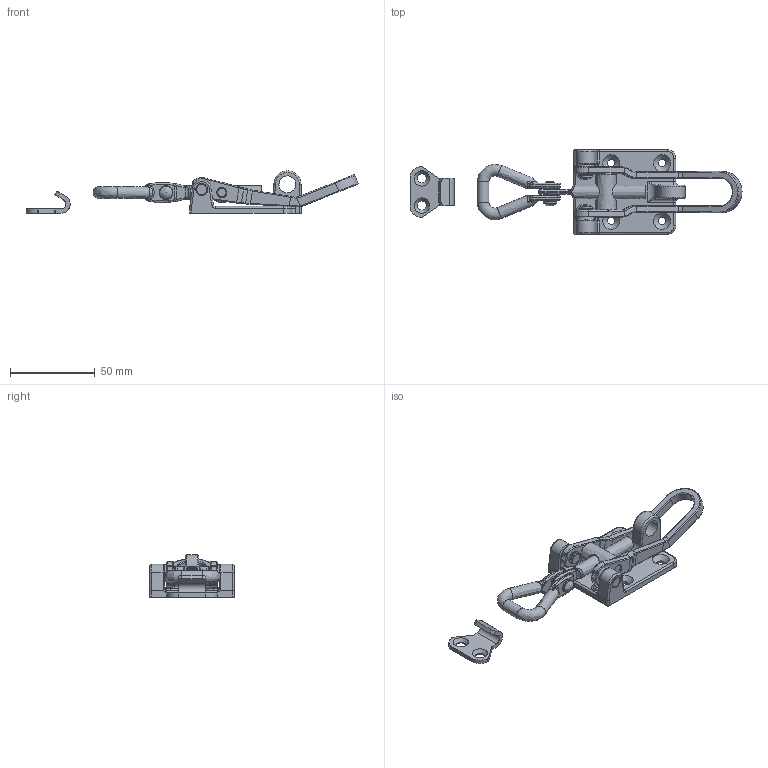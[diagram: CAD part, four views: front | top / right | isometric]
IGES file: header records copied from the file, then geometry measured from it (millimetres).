
Global section: file name: DR_C-M15; native system: Autodesk Inventor 2015; preprocessor: unknown; author: Administrator; date: 20180301.113022; units: millimetre
Bounding box: 195.66 x 50 x 24.99 mm (x, y, z)
Volume: 34398 mm3; surface area: 22813.1 mm2
Topology: 10 solids, 10 shells, 588 faces, 1420 edges, 856 vertices
Faces by surface type: bspline 588
